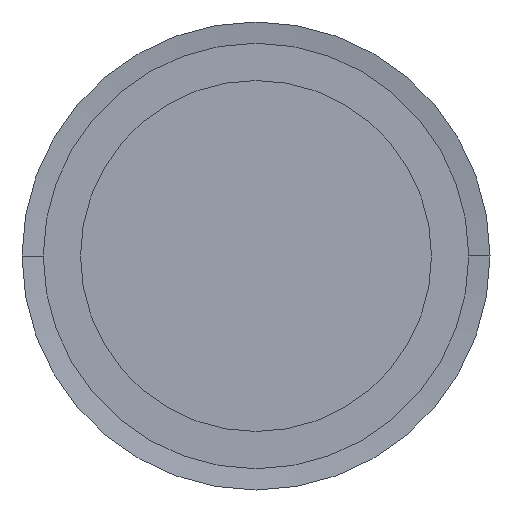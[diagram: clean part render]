
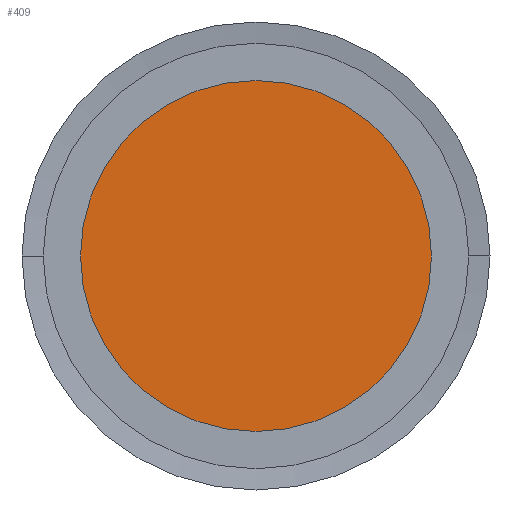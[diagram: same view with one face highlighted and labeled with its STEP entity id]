
A CAD part, left-side view. The second image highlights one B-rep face of the part: STEP entity #409.
In plain terms, the highlighted planar face has unit normal (-1, 0, 0).
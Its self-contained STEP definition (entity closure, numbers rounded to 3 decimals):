
#409 = ADVANCED_FACE( '', ( #1082 ), #1083, .T. );
#1082 = FACE_OUTER_BOUND( '', #1755, .T. );
#1083 = PLANE( '', #1756 );
#1755 = EDGE_LOOP( '', ( #4513, #4514 ) );
#1756 = AXIS2_PLACEMENT_3D( '', #4515, #4516, #4517 );
#4513 = ORIENTED_EDGE( '', *, *, #4521, .T. );
#4514 = ORIENTED_EDGE( '', *, *, #5395, .T. );
#4515 = CARTESIAN_POINT( '', ( 0., 8.25, 0. ) );
#4516 = DIRECTION( '', ( -1., 0., 0. ) );
#4517 = DIRECTION( '', ( 0., 1., 0. ) );
#4521 = EDGE_CURVE( '', #5397, #5401, #5403, .T. );
#5395 = EDGE_CURVE( '', #5401, #5397, #6821, .T. );
#5397 = VERTEX_POINT( '', #6823 );
#5401 = VERTEX_POINT( '', #6828 );
#5403 = CIRCLE( '', #6831, 16.5 );
#6821 = CIRCLE( '', #8629, 16.5 );
#6823 = CARTESIAN_POINT( '', ( 0., 16.5, 0. ) );
#6828 = CARTESIAN_POINT( '', ( 0., -16.5, 0. ) );
#6831 = AXIS2_PLACEMENT_3D( '', #8635, #8636, #8637 );
#8629 = AXIS2_PLACEMENT_3D( '', #10497, #10498, #10499 );
#8635 = CARTESIAN_POINT( '', ( 0., 0., 0. ) );
#8636 = DIRECTION( '', ( -1., 0., 0. ) );
#8637 = DIRECTION( '', ( 0., 1., 0. ) );
#10497 = CARTESIAN_POINT( '', ( 0., 0., 0. ) );
#10498 = DIRECTION( '', ( -1., 0., 0. ) );
#10499 = DIRECTION( '', ( 0., 1., 0. ) );
